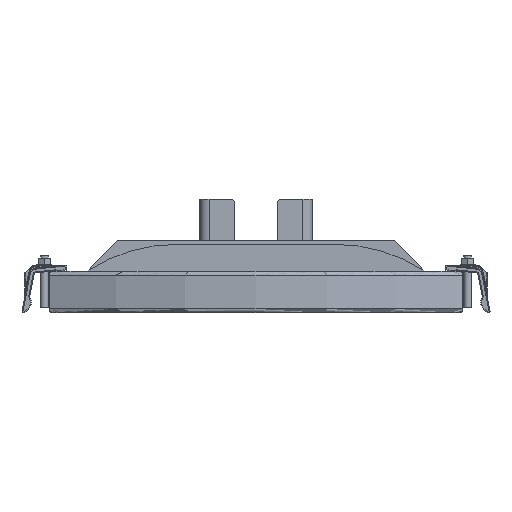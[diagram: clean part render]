
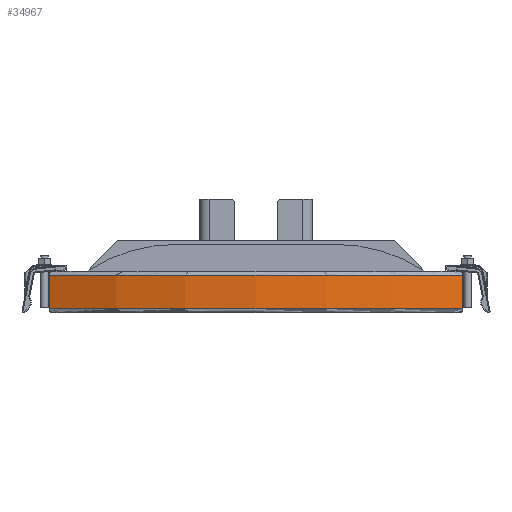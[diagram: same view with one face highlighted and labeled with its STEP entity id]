
A CAD part, front view. The second image highlights one B-rep face of the part: STEP entity #34967.
In plain terms, the highlighted cylindrical face has radius 492 mm (diameter 984 mm), a partial arc.
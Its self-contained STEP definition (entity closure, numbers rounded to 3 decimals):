
#75 = VECTOR ( 'NONE', #19128, 1000. ) ;
#4867 = LINE ( 'NONE', #27701, #75 ) ;
#11132 = CARTESIAN_POINT ( 'NONE',  ( -220.375, 40.115, 40. ) ) ;
#11395 = DIRECTION ( 'NONE',  ( -1., 0., 0. ) ) ;
#11470 = EDGE_CURVE ( 'NONE', #38047, #53111, #4867, .T. ) ;
#13891 = VERTEX_POINT ( 'NONE', #20133 ) ;
#16450 = EDGE_LOOP ( 'NONE', ( #32900, #18718, #54732, #60316 ) ) ;
#18365 = EDGE_CURVE ( 'NONE', #30449, #13891, #25701, .T. ) ;
#18718 = ORIENTED_EDGE ( 'NONE', *, *, #43920, .T. ) ;
#19128 = DIRECTION ( 'NONE',  ( 0., 0., -1. ) ) ;
#20133 = CARTESIAN_POINT ( 'NONE',  ( -220.375, 40.115, 4. ) ) ;
#20591 = AXIS2_PLACEMENT_3D ( 'NONE', #39181, #53278, #11395 ) ;
#23537 = CYLINDRICAL_SURFACE ( 'NONE', #44704, 492. ) ;
#24458 = DIRECTION ( 'NONE',  ( -1., 0., 0. ) ) ;
#25701 = LINE ( 'NONE', #35191, #53491 ) ;
#27701 = CARTESIAN_POINT ( 'NONE',  ( 220.375, 40.115, 40. ) ) ;
#28145 = CARTESIAN_POINT ( 'NONE',  ( 0., 480., 0. ) ) ;
#28442 = DIRECTION ( 'NONE',  ( 0., 0., -1. ) ) ;
#30356 = CIRCLE ( 'NONE', #20591, 492. ) ;
#30449 = VERTEX_POINT ( 'NONE', #11132 ) ;
#31921 = DIRECTION ( 'NONE',  ( 0., 0., -1. ) ) ;
#32900 = ORIENTED_EDGE ( 'NONE', *, *, #11470, .F. ) ;
#34967 = ADVANCED_FACE ( 'NONE', ( #56829 ), #23537, .T. ) ;
#35191 = CARTESIAN_POINT ( 'NONE',  ( -220.375, 40.115, 40. ) ) ;
#36857 = EDGE_CURVE ( 'NONE', #53111, #13891, #30356, .T. ) ;
#38047 = VERTEX_POINT ( 'NONE', #48828 ) ;
#39181 = CARTESIAN_POINT ( 'NONE',  ( 0., 480., 4. ) ) ;
#41994 = CARTESIAN_POINT ( 'NONE',  ( 220.375, 40.115, 4. ) ) ;
#43920 = EDGE_CURVE ( 'NONE', #38047, #30449, #50023, .T. ) ;
#44127 = DIRECTION ( 'NONE',  ( 0., 0., -1. ) ) ;
#44704 = AXIS2_PLACEMENT_3D ( 'NONE', #28145, #28442, #24458 ) ;
#45436 = CARTESIAN_POINT ( 'NONE',  ( 0., 480., 40. ) ) ;
#48828 = CARTESIAN_POINT ( 'NONE',  ( 220.375, 40.115, 40. ) ) ;
#50023 = CIRCLE ( 'NONE', #52954, 492. ) ;
#52954 = AXIS2_PLACEMENT_3D ( 'NONE', #45436, #31921, #55742 ) ;
#53111 = VERTEX_POINT ( 'NONE', #41994 ) ;
#53278 = DIRECTION ( 'NONE',  ( 0., 0., -1. ) ) ;
#53491 = VECTOR ( 'NONE', #44127, 1000. ) ;
#54732 = ORIENTED_EDGE ( 'NONE', *, *, #18365, .T. ) ;
#55742 = DIRECTION ( 'NONE',  ( -1., 0., 0. ) ) ;
#56829 = FACE_OUTER_BOUND ( 'NONE', #16450, .T. ) ;
#60316 = ORIENTED_EDGE ( 'NONE', *, *, #36857, .F. ) ;
